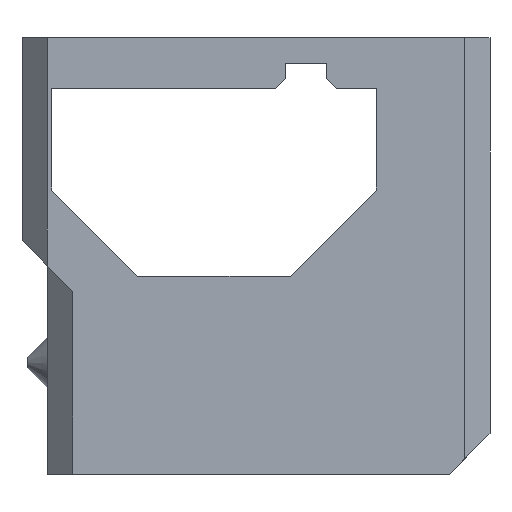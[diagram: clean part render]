
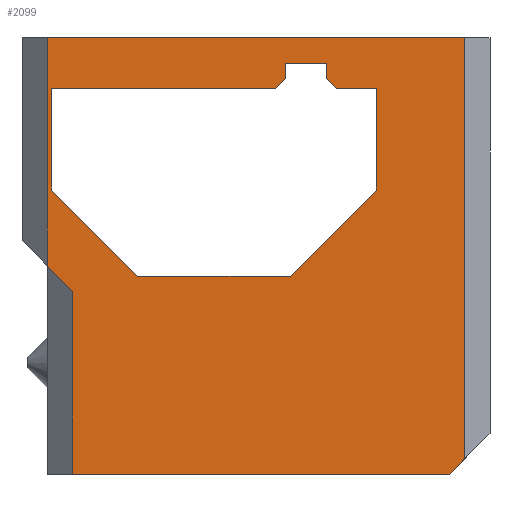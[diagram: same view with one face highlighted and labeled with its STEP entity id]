
A CAD part, left-side view. The second image highlights one B-rep face of the part: STEP entity #2099.
In plain terms, the highlighted planar face has unit normal (-1, 0, 0).
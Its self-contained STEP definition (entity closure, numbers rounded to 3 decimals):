
#35=FACE_BOUND('',#274,.T.);
#63=PLANE('',#2233);
#156=FACE_OUTER_BOUND('',#273,.T.);
#273=EDGE_LOOP('',(#1591,#1592,#1593,#1594,#1595,#1596,#1597));
#274=EDGE_LOOP('',(#1598,#1599,#1600,#1601,#1602,#1603,#1604,#1605,#1606,
#1607,#1608,#1609));
#433=LINE('',#3091,#698);
#442=LINE('',#3115,#707);
#449=LINE('',#3130,#714);
#451=LINE('',#3136,#716);
#454=LINE('',#3141,#719);
#455=LINE('',#3143,#720);
#456=LINE('',#3144,#721);
#457=LINE('',#3147,#722);
#458=LINE('',#3149,#723);
#459=LINE('',#3151,#724);
#460=LINE('',#3153,#725);
#461=LINE('',#3155,#726);
#462=LINE('',#3157,#727);
#463=LINE('',#3159,#728);
#464=LINE('',#3161,#729);
#465=LINE('',#3163,#730);
#466=LINE('',#3165,#731);
#467=LINE('',#3167,#732);
#468=LINE('',#3168,#733);
#698=VECTOR('',#2467,10.);
#707=VECTOR('',#2490,10.);
#714=VECTOR('',#2505,10.);
#716=VECTOR('',#2509,10.);
#719=VECTOR('',#2514,10.);
#720=VECTOR('',#2515,10.);
#721=VECTOR('',#2516,10.);
#722=VECTOR('',#2517,10.);
#723=VECTOR('',#2518,10.);
#724=VECTOR('',#2519,10.);
#725=VECTOR('',#2520,10.);
#726=VECTOR('',#2521,10.);
#727=VECTOR('',#2522,10.);
#728=VECTOR('',#2523,10.);
#729=VECTOR('',#2524,10.);
#730=VECTOR('',#2525,10.);
#731=VECTOR('',#2526,10.);
#732=VECTOR('',#2527,10.);
#733=VECTOR('',#2528,10.);
#1006=VERTEX_POINT('',#3088);
#1007=VERTEX_POINT('',#3090);
#1015=VERTEX_POINT('',#3113);
#1019=VERTEX_POINT('',#3128);
#1021=VERTEX_POINT('',#3133);
#1022=VERTEX_POINT('',#3135);
#1024=VERTEX_POINT('',#3142);
#1025=VERTEX_POINT('',#3145);
#1026=VERTEX_POINT('',#3146);
#1027=VERTEX_POINT('',#3148);
#1028=VERTEX_POINT('',#3150);
#1029=VERTEX_POINT('',#3152);
#1030=VERTEX_POINT('',#3154);
#1031=VERTEX_POINT('',#3156);
#1032=VERTEX_POINT('',#3158);
#1033=VERTEX_POINT('',#3160);
#1034=VERTEX_POINT('',#3162);
#1035=VERTEX_POINT('',#3164);
#1036=VERTEX_POINT('',#3166);
#1218=EDGE_CURVE('',#1007,#1006,#433,.T.);
#1231=EDGE_CURVE('',#1015,#1006,#442,.T.);
#1239=EDGE_CURVE('',#1007,#1019,#449,.T.);
#1241=EDGE_CURVE('',#1021,#1022,#451,.T.);
#1244=EDGE_CURVE('',#1022,#1015,#454,.T.);
#1245=EDGE_CURVE('',#1024,#1021,#455,.T.);
#1246=EDGE_CURVE('',#1024,#1019,#456,.T.);
#1247=EDGE_CURVE('',#1025,#1026,#457,.T.);
#1248=EDGE_CURVE('',#1026,#1027,#458,.T.);
#1249=EDGE_CURVE('',#1027,#1028,#459,.T.);
#1250=EDGE_CURVE('',#1028,#1029,#460,.T.);
#1251=EDGE_CURVE('',#1029,#1030,#461,.T.);
#1252=EDGE_CURVE('',#1031,#1030,#462,.T.);
#1253=EDGE_CURVE('',#1031,#1032,#463,.T.);
#1254=EDGE_CURVE('',#1032,#1033,#464,.T.);
#1255=EDGE_CURVE('',#1033,#1034,#465,.T.);
#1256=EDGE_CURVE('',#1035,#1034,#466,.T.);
#1257=EDGE_CURVE('',#1035,#1036,#467,.T.);
#1258=EDGE_CURVE('',#1036,#1025,#468,.T.);
#1591=ORIENTED_EDGE('',*,*,#1231,.F.);
#1592=ORIENTED_EDGE('',*,*,#1244,.F.);
#1593=ORIENTED_EDGE('',*,*,#1241,.F.);
#1594=ORIENTED_EDGE('',*,*,#1245,.F.);
#1595=ORIENTED_EDGE('',*,*,#1246,.T.);
#1596=ORIENTED_EDGE('',*,*,#1239,.F.);
#1597=ORIENTED_EDGE('',*,*,#1218,.T.);
#1598=ORIENTED_EDGE('',*,*,#1247,.T.);
#1599=ORIENTED_EDGE('',*,*,#1248,.T.);
#1600=ORIENTED_EDGE('',*,*,#1249,.T.);
#1601=ORIENTED_EDGE('',*,*,#1250,.T.);
#1602=ORIENTED_EDGE('',*,*,#1251,.T.);
#1603=ORIENTED_EDGE('',*,*,#1252,.F.);
#1604=ORIENTED_EDGE('',*,*,#1253,.T.);
#1605=ORIENTED_EDGE('',*,*,#1254,.T.);
#1606=ORIENTED_EDGE('',*,*,#1255,.T.);
#1607=ORIENTED_EDGE('',*,*,#1256,.F.);
#1608=ORIENTED_EDGE('',*,*,#1257,.T.);
#1609=ORIENTED_EDGE('',*,*,#1258,.T.);
#2099=ADVANCED_FACE('',(#156,#35),#63,.T.);
#2233=AXIS2_PLACEMENT_3D('',#3140,#2512,#2513);
#2467=DIRECTION('',(0.,1.,0.));
#2490=DIRECTION('',(0.,0.,1.));
#2505=DIRECTION('',(0.,0.,-1.));
#2509=DIRECTION('',(0.,0.,1.));
#2512=DIRECTION('center_axis',(-1.,0.,0.));
#2513=DIRECTION('ref_axis',(0.,1.,0.));
#2514=DIRECTION('',(0.,0.707,0.707));
#2515=DIRECTION('',(0.,1.,0.));
#2516=DIRECTION('',(0.,-0.707,0.707));
#2517=DIRECTION('',(0.,0.707,-0.707));
#2518=DIRECTION('',(0.,1.,0.));
#2519=DIRECTION('',(0.,0.707,0.707));
#2520=DIRECTION('',(0.,0.,1.));
#2521=DIRECTION('',(0.,-1.,0.));
#2522=DIRECTION('',(0.,0.707,-0.707));
#2523=DIRECTION('',(0.,0.,1.));
#2524=DIRECTION('',(0.,-1.,0.));
#2525=DIRECTION('',(0.,0.,-1.));
#2526=DIRECTION('',(0.,0.707,0.707));
#2527=DIRECTION('',(0.,-1.,0.));
#2528=DIRECTION('',(0.,0.,-1.));
#3088=CARTESIAN_POINT('',(-8.85,25.465,2.5));
#3090=CARTESIAN_POINT('',(-8.85,-15.655,2.5));
#3091=CARTESIAN_POINT('',(-8.85,-18.145,2.5));
#3113=CARTESIAN_POINT('',(-8.85,25.465,-19.99));
#3115=CARTESIAN_POINT('',(-8.85,25.465,2.5));
#3128=CARTESIAN_POINT('',(-8.85,-15.655,-38.99));
#3130=CARTESIAN_POINT('',(-8.85,-15.655,2.5));
#3133=CARTESIAN_POINT('',(-8.85,22.965,-40.5));
#3135=CARTESIAN_POINT('',(-8.85,22.965,-22.49));
#3136=CARTESIAN_POINT('',(-8.85,22.965,-7.5));
#3140=CARTESIAN_POINT('Origin',(-8.85,-18.145,2.5));
#3141=CARTESIAN_POINT('',(-8.85,20.805,-24.65));
#3142=CARTESIAN_POINT('',(-8.85,-14.145,-40.5));
#3143=CARTESIAN_POINT('',(-8.85,-18.145,-40.5));
#3144=CARTESIAN_POINT('',(-8.85,-25.895,-28.75));
#3145=CARTESIAN_POINT('',(-8.85,-6.955,-12.5));
#3146=CARTESIAN_POINT('',(-8.85,1.545,-21.));
#3147=CARTESIAN_POINT('',(-8.85,-13.503,-5.953));
#3148=CARTESIAN_POINT('',(-8.85,16.545,-21.));
#3149=CARTESIAN_POINT('',(-8.85,-8.3,-21.));
#3150=CARTESIAN_POINT('',(-8.85,25.045,-12.5));
#3151=CARTESIAN_POINT('',(-8.85,13.748,-23.798));
#3152=CARTESIAN_POINT('',(-8.85,25.045,-2.5));
#3153=CARTESIAN_POINT('',(-8.85,25.045,-5.));
#3154=CARTESIAN_POINT('',(-8.85,3.03,-2.5));
#3155=CARTESIAN_POINT('',(-8.85,3.45,-2.5));
#3156=CARTESIAN_POINT('',(-8.85,2.03,-1.5));
#3157=CARTESIAN_POINT('',(-8.85,-3.764,4.294));
#3158=CARTESIAN_POINT('',(-8.85,2.03,0.));
#3159=CARTESIAN_POINT('',(-8.85,2.03,1.25));
#3160=CARTESIAN_POINT('',(-8.85,-2.03,0.));
#3161=CARTESIAN_POINT('',(-8.85,-9.073,0.));
#3162=CARTESIAN_POINT('',(-8.85,-2.03,-1.5));
#3163=CARTESIAN_POINT('',(-8.85,-2.03,1.25));
#3164=CARTESIAN_POINT('',(-8.85,-3.03,-2.5));
#3165=CARTESIAN_POINT('',(-8.85,-5.309,-4.779));
#3166=CARTESIAN_POINT('',(-8.85,-6.955,-2.5));
#3167=CARTESIAN_POINT('',(-8.85,3.45,-2.5));
#3168=CARTESIAN_POINT('',(-8.85,-6.955,0.));
